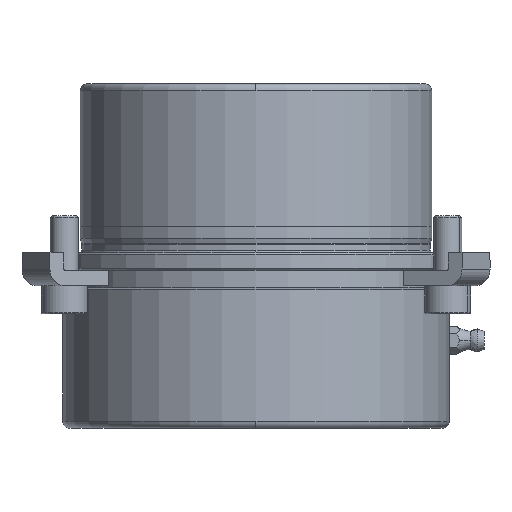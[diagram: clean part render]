
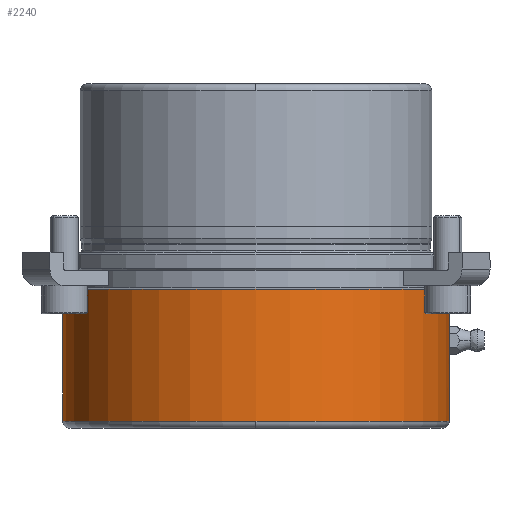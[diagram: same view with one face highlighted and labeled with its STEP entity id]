
A CAD part, front view. The second image highlights one B-rep face of the part: STEP entity #2240.
In plain terms, the highlighted cylindrical face has radius 55 mm (diameter 110 mm), a partial arc.
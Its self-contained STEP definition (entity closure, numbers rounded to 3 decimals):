
#604=CARTESIAN_POINT('',(0.,-55.,-48.));
#605=VERTEX_POINT('',#604);
#613=CARTESIAN_POINT('',(-55.0,0.,-48.0));
#614=VERTEX_POINT('',#613);
#615=CARTESIAN_POINT('',(0.0,0.,-48.0));
#616=DIRECTION('',(0.0,0.0,-1.0));
#617=DIRECTION('',(1.0,0.0,0.0));
#618=AXIS2_PLACEMENT_3D('',#615,#616,#617);
#619=CIRCLE('',#618,55.);
#620=EDGE_CURVE('',#605,#614,#619,.T.);
#637=CARTESIAN_POINT('',(55.,0.,-48.0));
#638=VERTEX_POINT('',#637);
#639=CARTESIAN_POINT('',(55.0,0.,-27.5));
#640=VERTEX_POINT('',#639);
#641=CARTESIAN_POINT('',(55.,0.,-48.0));
#642=DIRECTION('',(0.0,0.0,1.0));
#643=VECTOR('',#642,20.5);
#644=LINE('',#641,#643);
#645=EDGE_CURVE('',#638,#640,#644,.T.);
#655=CARTESIAN_POINT('',(-55.0,0.,-10.5));
#656=VERTEX_POINT('',#655);
#657=CARTESIAN_POINT('',(-55.0,0.,-48.0));
#658=DIRECTION('',(0.0,0.0,1.0));
#659=VECTOR('',#658,37.5);
#660=LINE('',#657,#659);
#661=EDGE_CURVE('',#614,#656,#660,.T.);
#663=CARTESIAN_POINT('',(55.0,0.,-10.5));
#664=VERTEX_POINT('',#663);
#672=CARTESIAN_POINT('',(55.0,0.,-22.5));
#673=VERTEX_POINT('',#672);
#674=CARTESIAN_POINT('',(55.0,0.,-22.5));
#675=DIRECTION('',(0.0,0.0,1.0));
#676=VECTOR('',#675,12.0);
#677=LINE('',#674,#676);
#678=EDGE_CURVE('',#673,#664,#677,.T.);
#1579=CARTESIAN_POINT('',(54.943,-2.5,-25.0));
#1580=VERTEX_POINT('',#1579);
#1581=CARTESIAN_POINT('',(54.943,-2.5,-25.0));
#1582=CARTESIAN_POINT('',(54.943,-2.5,-24.843));
#1583=CARTESIAN_POINT('',(54.944,-2.485,-24.681));
#1584=CARTESIAN_POINT('',(54.947,-2.422,-24.358));
#1585=CARTESIAN_POINT('',(54.949,-2.373,-24.197));
#1586=CARTESIAN_POINT('',(54.954,-2.246,-23.889));
#1587=CARTESIAN_POINT('',(54.957,-2.166,-23.742));
#1588=CARTESIAN_POINT('',(54.964,-1.983,-23.469));
#1589=CARTESIAN_POINT('',(54.968,-1.879,-23.343));
#1590=CARTESIAN_POINT('',(54.975,-1.657,-23.121));
#1591=CARTESIAN_POINT('',(54.979,-1.531,-23.017));
#1592=CARTESIAN_POINT('',(54.986,-1.258,-22.834));
#1593=CARTESIAN_POINT('',(54.989,-1.111,-22.754));
#1594=CARTESIAN_POINT('',(54.994,-0.803,-22.627));
#1595=CARTESIAN_POINT('',(54.996,-0.642,-22.578));
#1596=CARTESIAN_POINT('',(54.999,-0.319,-22.515));
#1597=CARTESIAN_POINT('',(55.0,-0.157,-22.5));
#1598=CARTESIAN_POINT('',(55.0,0.,-22.5));
#1599=B_SPLINE_CURVE_WITH_KNOTS('',3,(#1581,#1582,#1583,#1584,#1585,#1586,#1587,#1588,#1589,#1590,#1591,#1592,#1593,#1594,#1595,#1596,#1597,#1598),.UNSPECIFIED.,.F.,.U.,(4,2,2,2,2,2,2,2,4),(0.0,0.471,0.942,1.413,1.884,2.355,2.826,3.296,3.767),.UNSPECIFIED.);
#1600=EDGE_CURVE('',#1580,#673,#1599,.T.);
#1602=CARTESIAN_POINT('',(55.0,0.,-27.5));
#1603=CARTESIAN_POINT('',(55.0,-0.157,-27.5));
#1604=CARTESIAN_POINT('',(54.999,-0.319,-27.485));
#1605=CARTESIAN_POINT('',(54.996,-0.642,-27.422));
#1606=CARTESIAN_POINT('',(54.994,-0.803,-27.373));
#1607=CARTESIAN_POINT('',(54.989,-1.111,-27.246));
#1608=CARTESIAN_POINT('',(54.986,-1.258,-27.166));
#1609=CARTESIAN_POINT('',(54.979,-1.531,-26.983));
#1610=CARTESIAN_POINT('',(54.975,-1.657,-26.879));
#1611=CARTESIAN_POINT('',(54.968,-1.879,-26.657));
#1612=CARTESIAN_POINT('',(54.964,-1.983,-26.531));
#1613=CARTESIAN_POINT('',(54.957,-2.166,-26.258));
#1614=CARTESIAN_POINT('',(54.954,-2.246,-26.111));
#1615=CARTESIAN_POINT('',(54.949,-2.373,-25.803));
#1616=CARTESIAN_POINT('',(54.947,-2.422,-25.642));
#1617=CARTESIAN_POINT('',(54.944,-2.485,-25.319));
#1618=CARTESIAN_POINT('',(54.943,-2.5,-25.157));
#1619=CARTESIAN_POINT('',(54.943,-2.5,-25.0));
#1620=B_SPLINE_CURVE_WITH_KNOTS('',3,(#1602,#1603,#1604,#1605,#1606,#1607,#1608,#1609,#1610,#1611,#1612,#1613,#1614,#1615,#1616,#1617,#1618,#1619),.UNSPECIFIED.,.F.,.U.,(4,2,2,2,2,2,2,2,4),(11.302,11.773,12.244,12.715,13.186,13.657,14.128,14.599,15.07),.UNSPECIFIED.);
#1621=EDGE_CURVE('',#640,#1580,#1620,.T.);
#2209=CARTESIAN_POINT('',(0.0,0.,-10.5));
#2210=DIRECTION('',(0.0,0.0,-1.0));
#2211=DIRECTION('',(1.0,0.0,0.0));
#2212=AXIS2_PLACEMENT_3D('',#2209,#2210,#2211);
#2213=CIRCLE('',#2212,55.0);
#2214=EDGE_CURVE('',#664,#656,#2213,.T.);
#2219=CARTESIAN_POINT('',(0.0,0.,-29.25));
#2220=DIRECTION('',(0.0,0.,-1.0));
#2221=DIRECTION('',(1.0,0.0,0.0));
#2222=AXIS2_PLACEMENT_3D('',#2219,#2220,#2221);
#2223=CYLINDRICAL_SURFACE('',#2222,55.0);
#2224=ORIENTED_EDGE('',*,*,#645,.T.);
#2225=ORIENTED_EDGE('',*,*,#1621,.T.);
#2226=ORIENTED_EDGE('',*,*,#1600,.T.);
#2227=ORIENTED_EDGE('',*,*,#678,.T.);
#2228=ORIENTED_EDGE('',*,*,#2214,.T.);
#2229=ORIENTED_EDGE('',*,*,#661,.F.);
#2230=ORIENTED_EDGE('',*,*,#620,.F.);
#2231=CARTESIAN_POINT('',(0.0,0.,-48.0));
#2232=DIRECTION('',(0.0,0.0,-1.0));
#2233=DIRECTION('',(1.0,0.0,0.0));
#2234=AXIS2_PLACEMENT_3D('',#2231,#2232,#2233);
#2235=CIRCLE('',#2234,55.);
#2236=EDGE_CURVE('',#638,#605,#2235,.T.);
#2237=ORIENTED_EDGE('',*,*,#2236,.F.);
#2238=EDGE_LOOP('',(#2224,#2225,#2226,#2227,#2228,#2229,#2230,#2237));
#2239=FACE_OUTER_BOUND('',#2238,.T.);
#2240=ADVANCED_FACE('',(#2239),#2223,.T.);
